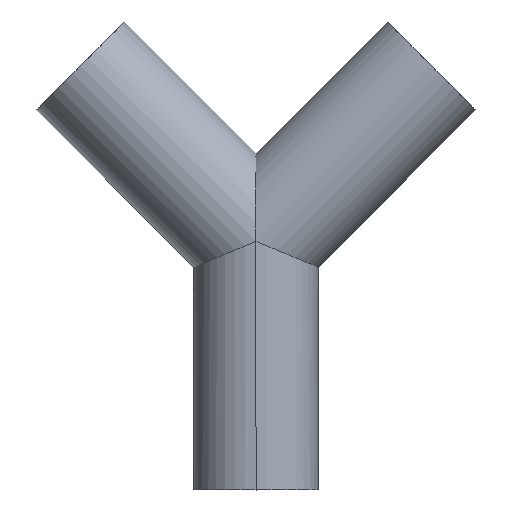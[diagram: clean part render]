
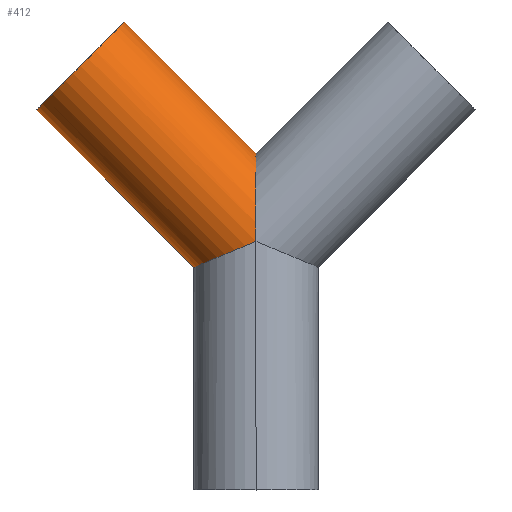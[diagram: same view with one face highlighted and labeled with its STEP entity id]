
A CAD part, top view. The second image highlights one B-rep face of the part: STEP entity #412.
In plain terms, the highlighted cylindrical face has radius 38.1 mm (diameter 76.2 mm), a partial arc.
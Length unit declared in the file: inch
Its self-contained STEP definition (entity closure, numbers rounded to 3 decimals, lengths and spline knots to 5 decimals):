
#10 = FACE_OUTER_BOUND ( 'NONE', #353, .T. ) ;
#26 = EDGE_CURVE ( 'NONE', #468, #478, #30, .T. ) ;
#30 = LINE ( 'NONE', #480, #174 ) ;
#31 = LINE ( 'NONE', #81, #285 ) ;
#32 = CARTESIAN_POINT ( 'NONE',  ( -4.24264, 10.24264, 0. ) ) ;
#33 = CARTESIAN_POINT ( 'NONE',  ( 0., 8.12132, 0.87868 ) ) ;
#35 = AXIS2_PLACEMENT_3D ( 'NONE', #242, #56, #44 ) ;
#43 = AXIS2_PLACEMENT_3D ( 'NONE', #32, #453, #160 ) ;
#44 = DIRECTION ( 'NONE',  ( -0.707, -0.707, 0. ) ) ;
#49 =( BOUNDED_CURVE ( )  B_SPLINE_CURVE ( 3, ( #73, #414, #223, #190 ),
 .UNSPECIFIED., .F., .T. ) 
 B_SPLINE_CURVE_WITH_KNOTS ( ( 4, 4 ),
 ( 4.71239, 6.28319 ),
 .UNSPECIFIED. ) 
 CURVE ( )  GEOMETRIC_REPRESENTATION_ITEM ( )  RATIONAL_B_SPLINE_CURVE ( ( 1., 0.805, 0.805, 1. ) ) 
 REPRESENTATION_ITEM ( '' )  );
#56 = DIRECTION ( 'NONE',  ( -0.707, 0.707, 0. ) ) ;
#62 = ORIENTED_EDGE ( 'NONE', *, *, #184, .T. ) ;
#64 = CIRCLE ( 'NONE', #43, 1.5 ) ;
#68 = ORIENTED_EDGE ( 'NONE', *, *, #294, .F. ) ;
#73 = CARTESIAN_POINT ( 'NONE',  ( 0., 6., 1.5 ) ) ;
#77 = CARTESIAN_POINT ( 'NONE',  ( -1.5, 5.37868, 0. ) ) ;
#81 = CARTESIAN_POINT ( 'NONE',  ( 1.06066, 7.06066, 0. ) ) ;
#92 = ORIENTED_EDGE ( 'NONE', *, *, #26, .F. ) ;
#95 = ORIENTED_EDGE ( 'NONE', *, *, #237, .F. ) ;
#108 = VERTEX_POINT ( 'NONE', #222 ) ;
#116 = CARTESIAN_POINT ( 'NONE',  ( -5.3033, 9.18198, 0. ) ) ;
#117 = CARTESIAN_POINT ( 'NONE',  ( 0., 6., 1.5 ) ) ;
#130 = CYLINDRICAL_SURFACE ( 'NONE', #35, 1.5 ) ;
#160 = DIRECTION ( 'NONE',  ( -0.707, -0.707, 0. ) ) ;
#174 = VECTOR ( 'NONE', #224, 39.37008 ) ;
#184 = EDGE_CURVE ( 'NONE', #289, #108, #31, .T. ) ;
#190 = CARTESIAN_POINT ( 'NONE',  ( -1.5, 5.37868, 0. ) ) ;
#192 = CARTESIAN_POINT ( 'NONE',  ( 0., 8.12132, 0. ) ) ;
#193 = EDGE_CURVE ( 'NONE', #200, #289, #283, .T. ) ;
#200 = VERTEX_POINT ( 'NONE', #117 ) ;
#222 = CARTESIAN_POINT ( 'NONE',  ( -3.18198, 11.3033, 0. ) ) ;
#223 = CARTESIAN_POINT ( 'NONE',  ( -1.5, 5.37868, 0.87868 ) ) ;
#224 = DIRECTION ( 'NONE',  ( -0.707, 0.707, 0. ) ) ;
#231 = CARTESIAN_POINT ( 'NONE',  ( 0., 6., 1.5 ) ) ;
#237 = EDGE_CURVE ( 'NONE', #200, #468, #49, .T. ) ;
#242 = CARTESIAN_POINT ( 'NONE',  ( 0., 6., 0. ) ) ;
#269 = CARTESIAN_POINT ( 'NONE',  ( 0., 8.12132, 0. ) ) ;
#283 =( BOUNDED_CURVE ( )  B_SPLINE_CURVE ( 3, ( #231, #377, #33, #192 ),
 .UNSPECIFIED., .F., .T. ) 
 B_SPLINE_CURVE_WITH_KNOTS ( ( 4, 4 ),
 ( 4.71239, 6.28319 ),
 .UNSPECIFIED. ) 
 CURVE ( )  GEOMETRIC_REPRESENTATION_ITEM ( )  RATIONAL_B_SPLINE_CURVE ( ( 1., 0.805, 0.805, 1. ) ) 
 REPRESENTATION_ITEM ( '' )  );
#285 = VECTOR ( 'NONE', #371, 39.37008 ) ;
#289 = VERTEX_POINT ( 'NONE', #269 ) ;
#294 = EDGE_CURVE ( 'NONE', #478, #108, #64, .T. ) ;
#353 = EDGE_LOOP ( 'NONE', ( #370, #62, #68, #92, #95 ) ) ;
#370 = ORIENTED_EDGE ( 'NONE', *, *, #193, .T. ) ;
#371 = DIRECTION ( 'NONE',  ( -0.707, 0.707, 0. ) ) ;
#377 = CARTESIAN_POINT ( 'NONE',  ( 0., 7.24264, 1.5 ) ) ;
#412 = ADVANCED_FACE ( 'NONE', ( #10 ), #130, .T. ) ;
#414 = CARTESIAN_POINT ( 'NONE',  ( -0.87868, 5.63604, 1.5 ) ) ;
#453 = DIRECTION ( 'NONE',  ( -0.707, 0.707, 0. ) ) ;
#468 = VERTEX_POINT ( 'NONE', #77 ) ;
#478 = VERTEX_POINT ( 'NONE', #116 ) ;
#480 = CARTESIAN_POINT ( 'NONE',  ( -1.06066, 4.93934, 0. ) ) ;
